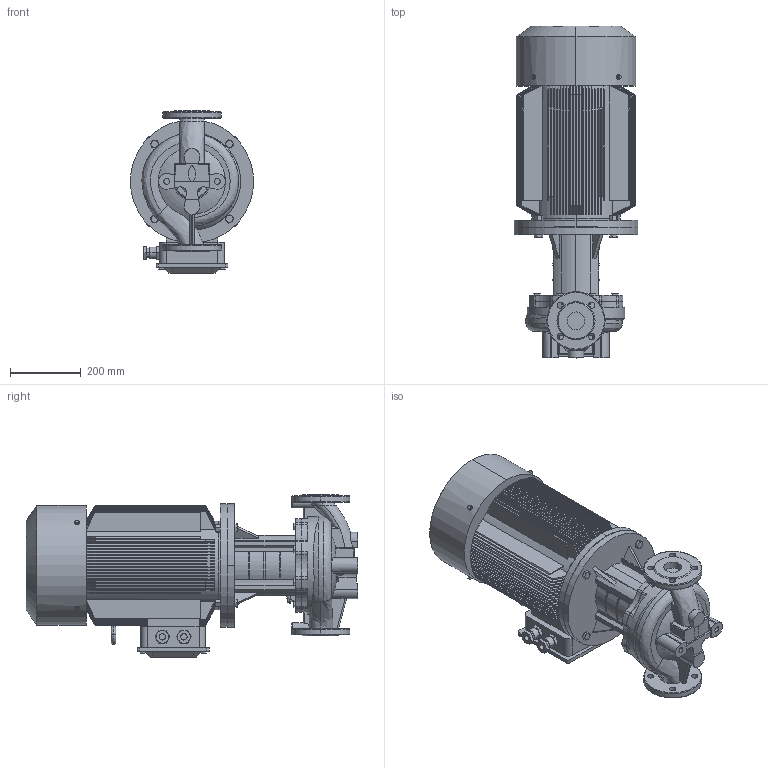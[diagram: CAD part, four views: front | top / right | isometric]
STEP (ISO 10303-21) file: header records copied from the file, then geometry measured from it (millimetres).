
FILE_DESCRIPTION (( 'STEP AP203' ), '1' );
FILE_NAME ('TD50-50G／2.STEP', '2026-09-07T02:18:44', ( '' ), ( '' ), 'SwSTEP 2.0', 'SolidWorks 2020', '' );
FILE_SCHEMA (( 'CONFIG_CONTROL_DESIGN' ));
Length unit declared in the file: millimetre
Products named in the file (1): TD50-50Gㄞ2
Bounding box: 350 x 941 x 460 mm (x, y, z)
Volume: 57217751.8 mm3; surface area: 3830318 mm2
Topology: 1 solids, 7 shells, 1588 faces, 4039 edges, 2544 vertices
Faces by surface type: plane 700, cylinder 403, cone 386, torus 52, bspline 45, sphere 2
Entity records: 67830 total; most frequent: CARTESIAN_POINT 30439, ORIENTED_EDGE 8070, DIRECTION 7528, EDGE_CURVE 4035, AXIS2_PLACEMENT_3D 2977, VERTEX_POINT 2544, EDGE_LOOP 1699, FACE_OUTER_BOUND 1588
